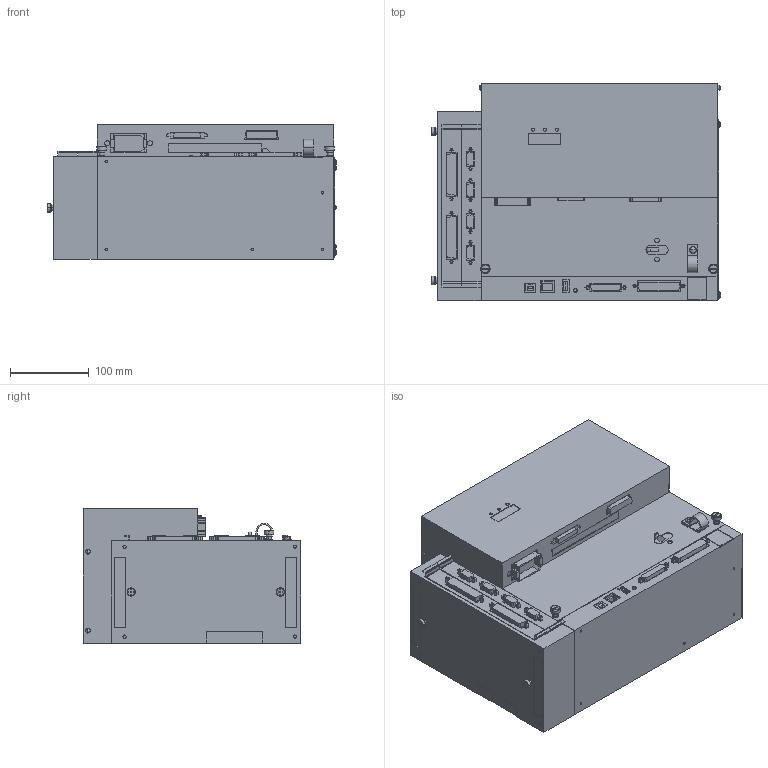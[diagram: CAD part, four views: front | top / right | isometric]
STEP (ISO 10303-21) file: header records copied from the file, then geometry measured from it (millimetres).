
FILE_DESCRIPTION( ( '' ), '1' );
FILE_NAME( '//expscmdclustefs.cadenas.external/client_exchange/iodir/jobs/output/wkb51549041_no0/STEP/RC180_Option1_2_14b.stp', '2012-11-23T14:04:53', ( '' ), ( '' ), ' ', ' ', ' ' );
FILE_SCHEMA( ( 'automotive_design' ) );
Length unit declared in the file: millimetre
Products named in the file (2): 1; 2
Bounding box: 366.37 x 275 x 170.5 mm (x, y, z)
Volume: 14256131.4 mm3; surface area: 478256.2 mm2
Topology: 2 solids, 2 shells, 795 faces, 1957 edges, 1284 vertices
Faces by surface type: plane 523, cylinder 236, torus 20, cone 16
Entity records: 45801 total; most frequent: DIRECTION 4041, CARTESIAN_POINT 4034, STYLED_ITEM 4018, PRESENTATION_STYLE_ASSIGNMENT 4018, COLOUR_RGB 4018, ORIENTED_EDGE 3874, EDGE_CURVE 1937, CURVE_STYLE 1937
